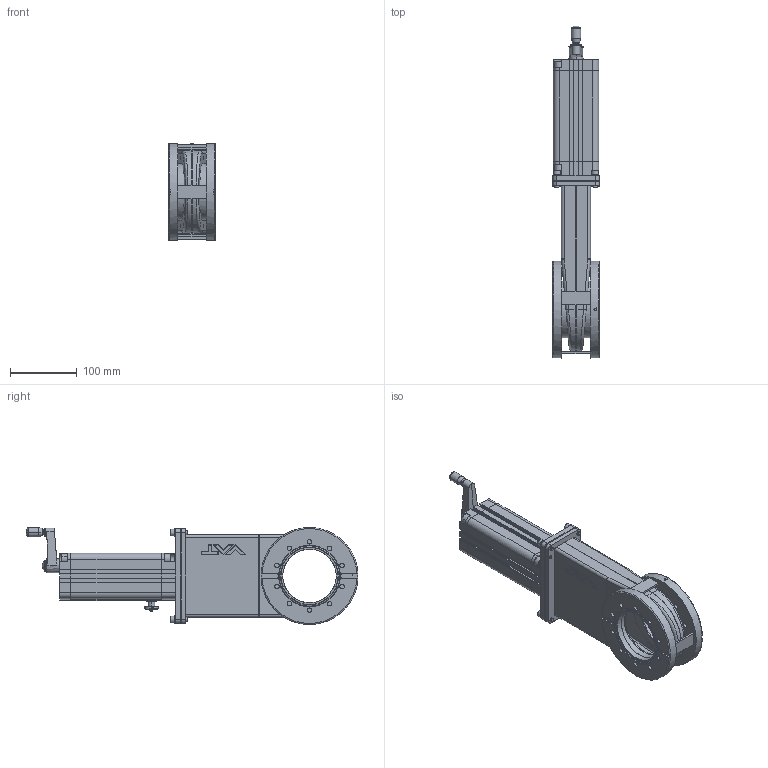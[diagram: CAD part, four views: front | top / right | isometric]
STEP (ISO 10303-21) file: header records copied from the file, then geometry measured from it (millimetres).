
FILE_DESCRIPTION(/* description */ (''),/* implementation_level */ '2;1');
FILE_NAME(/* name */ '1826278160_203.stp',/* time_stamp */ '2010-02-24T15:25:37+01:00',/* author */ (''),/* organization */ (''),/* preprocessor_version */ 'ST-DEVELOPER v11',/* originating_system */ 'UGS - NX 5.0',/* authorisation */ '');
FILE_SCHEMA (('CONFIG_CONTROL_DESIGN'));
Length unit declared in the file: millimetre
Products named in the file (28): 350769.3; 351945.10; 351301.5; 251262.4; 356605.3; 436441; 301626.1; 342971.1; 343006.1; 350896.2; N-6092-118.1; n-6134-408; n-6195-408; 218189; 260719.2; 350855.2; 260826.1; 362706.4; 301646.1; 259432.1; 260722.6; 332680.2; 259597.1; 351296.12; 436430; 343008.1; 350915.1; 436530
Assembly tree (43 placements, depth 4):
  436530
    259597.1  x4
    350915.1
      N-6092-118.1  x2
      350896.2
    343008.1
      343006.1
      342971.1  x2
      301626.1
    332680.2
    260722.6
    259432.1
    301646.1
    362706.4
    260826.1
    350855.2
    260719.2
    218189  x4
    n-6195-408
    n-6134-408  x4
    436430
      436441  x2
      356605.3
      251262.4  x3
      351296.12
        351945.10  x2
        350769.3
      351301.5  x2
Bounding box: 70 x 496.56 x 145 mm (x, y, z)
Volume: 1217264 mm3; surface area: 487705.4 mm2
Topology: 48 solids, 48 shells, 1385 faces, 3626 edges, 2392 vertices
Faces by surface type: plane 747, cylinder 404, revolution 94, cone 69, bspline 24, torus 21, extrusion 14, sphere 12
Full cylindrical faces by diameter (mm): 2.2 x1, 2.5 x2, 3 x2, 3.17 x1, 4 x2, 4.96 x4, 4.985 x1, 4.991 x2, 5 x8, 5.2 x6, 5.22 x4, 5.3 x1, 6 x8, 6.4 x4, 6.5 x10, 6.8 x30, 10 x4, 10.008 x1, 10.4 x4, 11 x6, 11.5 x4, 12 x2, 14 x3, 15 x1, 15.2 x1, 16 x1, 16.2 x1, 21.976 x1, 23 x1, 25.345 x1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
Entity records: 35765 total; most frequent: CARTESIAN_POINT 7502, DIRECTION 5051, ORIENTED_EDGE 4986, EDGE_CURVE 2493, AXIS2_PLACEMENT_3D 1754, VERTEX_POINT 1752, VECTOR 1491, LINE 1477
